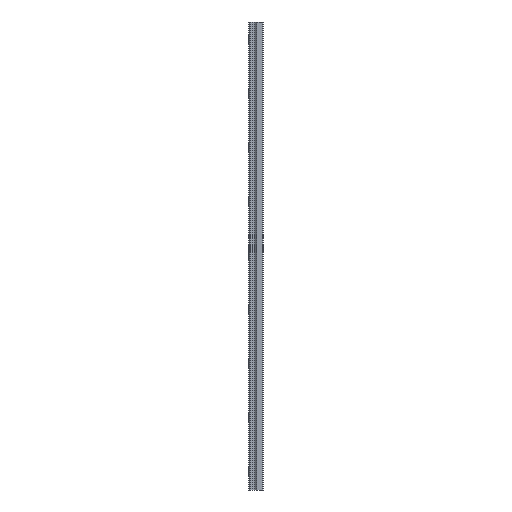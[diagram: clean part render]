
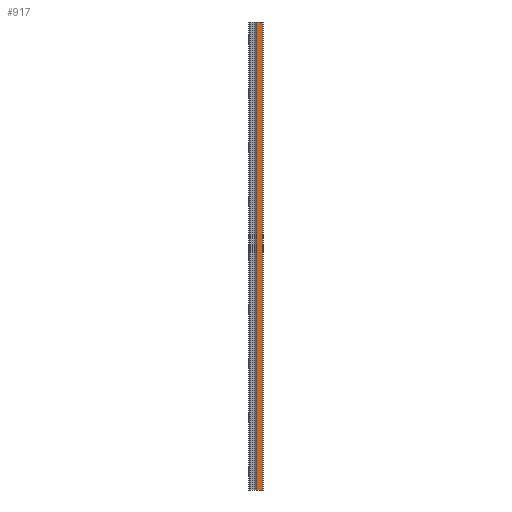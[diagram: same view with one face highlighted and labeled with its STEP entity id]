
A CAD part, left-side view. The second image highlights one B-rep face of the part: STEP entity #917.
In plain terms, the highlighted planar face has unit normal (-1, 0, 0).
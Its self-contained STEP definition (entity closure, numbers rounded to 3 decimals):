
#45 = EDGE_CURVE ( 'NONE', #1711, #972, #715, .T. ) ;
#94 = CARTESIAN_POINT ( 'NONE',  ( -10., 1., 260. ) ) ;
#112 = LINE ( 'NONE', #1305, #2137 ) ;
#151 = CARTESIAN_POINT ( 'NONE',  ( -10., 1., 260. ) ) ;
#222 = CARTESIAN_POINT ( 'NONE',  ( -10., 7.3, -260. ) ) ;
#226 = EDGE_CURVE ( 'NONE', #332, #1848, #1974, .T. ) ;
#332 = VERTEX_POINT ( 'NONE', #2016 ) ;
#386 = EDGE_LOOP ( 'NONE', ( #696, #1196, #1948, #1227 ) ) ;
#412 = CARTESIAN_POINT ( 'NONE',  ( -10., 16.3, -260. ) ) ;
#458 = CARTESIAN_POINT ( 'NONE',  ( -10., 1., -260. ) ) ;
#593 = DIRECTION ( 'NONE',  ( 0., -1., 0. ) ) ;
#605 = FACE_OUTER_BOUND ( 'NONE', #386, .T. ) ;
#696 = ORIENTED_EDGE ( 'NONE', *, *, #2020, .T. ) ;
#715 = LINE ( 'NONE', #94, #1943 ) ;
#819 = DIRECTION ( 'NONE',  ( 1., 0., 0. ) ) ;
#834 = EDGE_CURVE ( 'NONE', #1848, #972, #112, .T. ) ;
#917 = ADVANCED_FACE ( 'NONE', ( #605 ), #1339, .F. ) ;
#932 = DIRECTION ( 'NONE',  ( 0., 0., 1. ) ) ;
#972 = VERTEX_POINT ( 'NONE', #151 ) ;
#993 = VECTOR ( 'NONE', #932, 1000. ) ;
#1189 = CARTESIAN_POINT ( 'NONE',  ( -10., 7.3, 260. ) ) ;
#1194 = DIRECTION ( 'NONE',  ( 0., 1., 0. ) ) ;
#1196 = ORIENTED_EDGE ( 'NONE', *, *, #45, .T. ) ;
#1227 = ORIENTED_EDGE ( 'NONE', *, *, #226, .F. ) ;
#1305 = CARTESIAN_POINT ( 'NONE',  ( -10., 16.3, 260. ) ) ;
#1339 = PLANE ( 'NONE',  #2280 ) ;
#1711 = VERTEX_POINT ( 'NONE', #458 ) ;
#1848 = VERTEX_POINT ( 'NONE', #1189 ) ;
#1862 = CARTESIAN_POINT ( 'NONE',  ( -10., 16.3, 260. ) ) ;
#1879 = DIRECTION ( 'NONE',  ( 0., -1., 0. ) ) ;
#1943 = VECTOR ( 'NONE', #2217, 1000. ) ;
#1948 = ORIENTED_EDGE ( 'NONE', *, *, #834, .F. ) ;
#1974 = LINE ( 'NONE', #222, #993 ) ;
#2016 = CARTESIAN_POINT ( 'NONE',  ( -10., 7.3, -260. ) ) ;
#2020 = EDGE_CURVE ( 'NONE', #332, #1711, #2022, .T. ) ;
#2022 = LINE ( 'NONE', #412, #2254 ) ;
#2137 = VECTOR ( 'NONE', #1879, 1000. ) ;
#2217 = DIRECTION ( 'NONE',  ( 0., 0., 1. ) ) ;
#2254 = VECTOR ( 'NONE', #593, 1000. ) ;
#2280 = AXIS2_PLACEMENT_3D ( 'NONE', #1862, #819, #1194 ) ;
